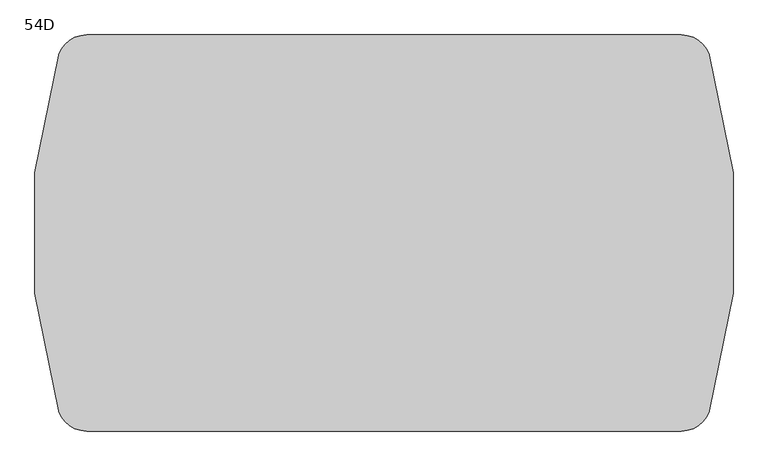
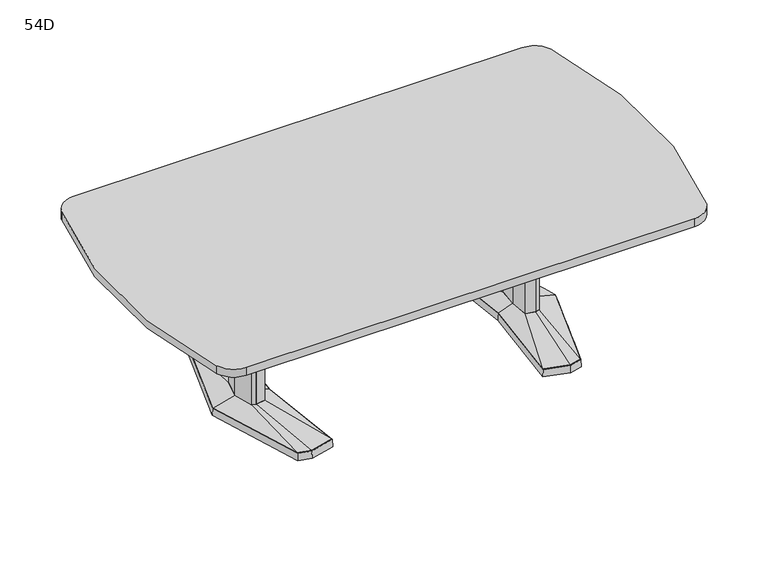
"""IFC4 building model written with IfcOpenShell, lengths in millimetres: furniture geometry, Coalesse_AM_Table_Conference_ETable2_SoftRadiused_96in_AluminiumBase : 54D."""

import ifcopenshell
import ifcopenshell.guid

model = None  # the IFC model being written
_history = None  # IfcOwnerHistory: only IFC2X3 demands one
_inside = {}  # id of a spatial element -> (the spatial element, [elements in it])
_under = {}  # id of a project, library or spatial element -> (it, [spatial elements below it])
_declared = {}  # id of a project -> (the project, [libraries it declares])
_typed = {}  # id of a type object -> (the type object, [elements of that type])
_made_of = {}  # id of a material, layer set ... -> (it, [elements and type objects made of it])


def new_model(schema):
    """Start an empty IFC model of exactly this schema.

    Asked for "IFC4X3", IfcOpenShell would pick the latest addendum, in which some entities
    have other attributes; the version numbers below select the first issue.
    IFC2X3 requires an IfcOwnerHistory on every rooted entity: one is made here for all.
    """
    global model, _history
    if schema == "IFC4X3":
        model = ifcopenshell.file(schema_version=(4, 3, 0, 0))
    else:
        model = ifcopenshell.file(schema=schema)
    _inside.clear()
    _under.clear()
    _declared.clear()
    _typed.clear()
    _made_of.clear()
    _history = None
    if model.schema == "IFC2X3":
        org = make("IfcOrganization", Name="unknown")
        user = make(
            "IfcPersonAndOrganization",
            ThePerson=make("IfcPerson", FamilyName="unknown"),
            TheOrganization=org,
        )
        app = make(
            "IfcApplication",
            ApplicationDeveloper=org,
            Version="unknown",
            ApplicationFullName="unknown",
            ApplicationIdentifier="unknown",
        )
        _history = make(
            "IfcOwnerHistory",
            OwningUser=user,
            OwningApplication=app,
            ChangeAction="ADDED",
            CreationDate=0,
        )
    return model


def make(cls, **values):
    """One entity of the class cls with the attributes given. An attribute that is None is left unset."""
    return model.create_entity(
        cls, **{name: value for name, value in values.items() if value is not None}
    )


def rooted(cls, **values):
    """An entity with a GlobalId (a new one), such as an element, a storey or a relation."""
    return make(cls, GlobalId=ifcopenshell.guid.new(), OwnerHistory=_history, **values)


def si_unit(unit_type, name, prefix=None):
    """IfcSIUnit, for example si_unit("LENGTHUNIT", "METRE", prefix="MILLI")."""
    return make("IfcSIUnit", UnitType=unit_type, Prefix=prefix, Name=name)


def assignment(units):
    """IfcUnitAssignment: the units of a project."""
    return None if units is None else make("IfcUnitAssignment", Units=units)


def point(xyz):
    """IfcCartesianPoint."""
    return None if xyz is None else make("IfcCartesianPoint", Coordinates=xyz)


def direction(xyz):
    """IfcDirection."""
    return None if xyz is None else make("IfcDirection", DirectionRatios=xyz)


def frame(location, z_axis=None, x_axis=None):
    """IfcAxis2Placement3D, a coordinate frame: its origin and axes. An axis left out is left unset."""
    return make(
        "IfcAxis2Placement3D",
        Location=point(location),
        Axis=direction(z_axis),
        RefDirection=direction(x_axis),
    )


def frame_2d(location, x_axis=None):
    """IfcAxis2Placement2D, a coordinate frame in the plane: its origin and x axis."""
    return make(
        "IfcAxis2Placement2D", Location=point(location), RefDirection=direction(x_axis)
    )


def origin():
    """The frame at (0, 0, 0) with its axes left unset."""
    return frame((0.0, 0.0, 0.0))


def place(relative_to, where):
    """IfcLocalPlacement: puts the frame where relative to a parent placement (None: the world)."""
    return make(
        "IfcLocalPlacement", PlacementRelTo=relative_to, RelativePlacement=where
    )


def context(
    kind, dimensions, precision=None, world=None, true_north=None, identifier=None
):
    """IfcGeometricRepresentationContext, for example the 3D "Model" context."""
    return make(
        "IfcGeometricRepresentationContext",
        ContextIdentifier=identifier,
        ContextType=kind,
        CoordinateSpaceDimension=dimensions,
        Precision=precision,
        WorldCoordinateSystem=world,
        TrueNorth=true_north,
    )


def project(units=None, contexts=None):
    """IfcProject with its units and contexts."""
    return rooted(
        "IfcProject",
        Name="project",
        RepresentationContexts=contexts,
        UnitsInContext=assignment(units),
    )


def spatial(cls, under=None, at=None, **own):
    """A site, building, storey or space (cls), placed at a placement, below another one or the project."""
    s = rooted(cls, ObjectPlacement=at, **own)
    if under is not None:
        _under.setdefault(under.id(), (under, []))[1].append(s)
    return s


def polyline(points):
    """IfcPolyline through the points."""
    return make("IfcPolyline", Points=[point(p) for p in points])


def circle_curve(where, radius):
    """IfcCircle in the frame where."""
    return make("IfcCircle", Position=where, Radius=radius)


def trimmed(basis, trim1, trim2, sense, master):
    """IfcTrimmedCurve: the piece of a basis curve between two trims."""
    return make(
        "IfcTrimmedCurve",
        BasisCurve=basis,
        Trim1=trim1,
        Trim2=trim2,
        SenseAgreement=sense,
        MasterRepresentation=master,
    )


def segment(curve, same_sense, transition):
    """IfcCompositeCurveSegment."""
    return make(
        "IfcCompositeCurveSegment",
        Transition=transition,
        SameSense=same_sense,
        ParentCurve=curve,
    )


def composite_curve(segments, self_intersect=None):
    """IfcCompositeCurve: segments joined end to end."""
    return make("IfcCompositeCurve", Segments=segments, SelfIntersect=self_intersect)


def outline(outer, holes=None, kind="AREA"):
    """IfcArbitraryClosedProfileDef: a profile drawn as a closed curve; with holes, ...WithVoids."""
    if holes is None:
        return make("IfcArbitraryClosedProfileDef", ProfileType=kind, OuterCurve=outer)
    return make(
        "IfcArbitraryProfileDefWithVoids",
        ProfileType=kind,
        OuterCurve=outer,
        InnerCurves=holes,
    )


def extrude(swept, where, along, depth):
    """IfcExtrudedAreaSolid: the profile swept, set in the frame where, extruded along a direction by depth."""
    return make(
        "IfcExtrudedAreaSolid",
        SweptArea=swept,
        Position=where,
        ExtrudedDirection=direction(along),
        Depth=depth,
    )


def faces_of(points, faces, orient=None, outer=None):
    """IfcFace entities. A face is a list of loops; a loop is a list of indices into points, from 0.

    orient and outer hold one flag for each loop. By default every Orientation is true, the
    first loop of a face is its IfcFaceOuterBound and the others are IfcFaceBound.
    """
    made = []
    for i, loops in enumerate(faces):
        bounds = []
        for j, loop in enumerate(loops):
            is_outer = j == 0 if outer is None else outer[i][j]
            bounds.append(
                make(
                    "IfcFaceOuterBound" if is_outer else "IfcFaceBound",
                    Bound=make("IfcPolyLoop", Polygon=[points[k] for k in loop]),
                    Orientation=True if orient is None else orient[i][j],
                )
            )
        made.append(make("IfcFace", Bounds=bounds))
    return made


def faceted_brep(points, faces, orient=None, outer=None, voids=None):
    """IfcFacetedBrep: a solid bounded by flat faces; with voids (closed shells), ...WithVoids."""
    shared = [point(p) for p in points]
    hull = make("IfcClosedShell", CfsFaces=faces_of(shared, faces, orient, outer))
    if voids is None:
        return make("IfcFacetedBrep", Outer=hull)
    return make(
        "IfcFacetedBrepWithVoids",
        Outer=hull,
        Voids=[
            make(cls, CfsFaces=faces_of(shared, fs, o, b)) for cls, fs, o, b in voids
        ],
    )


def shape(context_of_items, identifier, shape_type, items):
    """IfcShapeRepresentation: the items that make up one representation, for example the "Body"."""
    return make(
        "IfcShapeRepresentation",
        ContextOfItems=context_of_items,
        RepresentationIdentifier=identifier,
        RepresentationType=shape_type,
        Items=items,
    )


def source(mapping_origin, context_of_items, identifier, shape_type, items):
    """IfcRepresentationMap: a shape defined once, which mapped items show again and again."""
    return make(
        "IfcRepresentationMap",
        MappingOrigin=mapping_origin,
        MappedRepresentation=shape(context_of_items, identifier, shape_type, items),
    )


def transform(
    local_origin,
    x_axis=None,
    y_axis=None,
    z_axis=None,
    scale=None,
    scale2=None,
    scale3=None,
    uniform=True,
):
    """IfcCartesianTransformationOperator3D, or its non-uniform kind. x_axis, y_axis, z_axis: its Axis1, 2, 3."""
    if uniform:
        return make(
            "IfcCartesianTransformationOperator3D",
            Axis1=direction(x_axis),
            Axis2=direction(y_axis),
            LocalOrigin=point(local_origin),
            Scale=scale,
            Axis3=direction(z_axis),
        )
    return make(
        "IfcCartesianTransformationOperator3DnonUniform",
        Axis1=direction(x_axis),
        Axis2=direction(y_axis),
        LocalOrigin=point(local_origin),
        Scale=scale,
        Axis3=direction(z_axis),
        Scale2=scale2,
        Scale3=scale3,
    )


def mapped(mapping_source, mapping_target):
    """IfcMappedItem: shows the shape of a source again, moved by a transform."""
    return make(
        "IfcMappedItem", MappingSource=mapping_source, MappingTarget=mapping_target
    )


def made_of(thing, what):
    """Note that an element or type object is made of a material, layer set ...; save() writes the relation."""
    if what is not None:
        _made_of.setdefault(what.id(), (what, []))[1].append(thing)
    return thing


def element(
    cls,
    number,
    at=None,
    inside=None,
    cuts=None,
    type_object=None,
    material=None,
    context=None,
    identifier="Body",
    shape_type=None,
    held_by="IfcProductDefinitionShape",
    body=None,
    shapes=None,
    **own,
):
    """One element of the class cls, such as IfcWall. Its Tag is "e" and its number.

    at: its placement. inside: the storey or other place that contains it. cuts: it is an
    opening in that element (IfcRelVoidsElement). A single representation is given by context,
    identifier, shape_type and body (its items); several are given by shapes. held_by: the class
    of the entity that holds the representations. save() writes the other relations.
    """
    e = rooted(cls, Tag="e%d" % number, ObjectPlacement=at, **own)
    if body is not None:
        shapes = [shape(context, identifier, shape_type, body)]
    if shapes is not None:
        e.Representation = make(held_by, Representations=shapes)
    if inside is not None:
        _inside.setdefault(inside.id(), (inside, []))[1].append(e)
    if cuts is not None:
        rooted(
            "IfcRelVoidsElement", RelatingBuildingElement=cuts, RelatedOpeningElement=e
        )
    if type_object is not None:
        _typed.setdefault(type_object.id(), (type_object, []))[1].append(e)
    return made_of(e, material)


def aggregate(whole, parts):
    """IfcRelAggregates: a whole, such as a stair, and the parts it consists of."""
    return rooted("IfcRelAggregates", RelatingObject=whole, RelatedObjects=parts)


def save(model, path):
    """Write the relations noted so far, then the file.

    IfcRelAggregates (storeys below a building ...), IfcRelContainedInSpatialStructure (elements
    in a storey), IfcRelDefinesByType, IfcRelAssociatesMaterial and IfcRelDeclares: one each for
    every whole, place, type object, material and project.
    """
    for whole, parts in _under.values():
        aggregate(whole, parts)
    for where, things in _inside.values():
        rooted(
            "IfcRelContainedInSpatialStructure",
            RelatedElements=things,
            RelatingStructure=where,
        )
    for kind, things in _typed.values():
        rooted("IfcRelDefinesByType", RelatedObjects=things, RelatingType=kind)
    for what, things in _made_of.values():
        rooted("IfcRelAssociatesMaterial", RelatedObjects=things, RelatingMaterial=what)
    for by, libraries in _declared.values():
        rooted("IfcRelDeclares", RelatingContext=by, RelatedDefinitions=libraries)
    model.write(path)


def plane_surface(at):
    """IfcPlane: the flat surface through the origin of the frame at, square to its z axis."""
    return make("IfcPlane", Position=at)


def spline_surface(u_degree, v_degree, points, u_multiplicities, v_multiplicities, u_knots, v_knots, weights=None):
    """IfcBSplineSurfaceWithKnots; with weights, IfcRationalBSplineSurfaceWithKnots. points: one row for each step in u."""
    own = dict(
        UDegree=u_degree,
        VDegree=v_degree,
        ControlPointsList=[[point(p) for p in row] for row in points],
        SurfaceForm="UNSPECIFIED",
        UClosed=False,
        VClosed=False,
        SelfIntersect=False,
        UMultiplicities=u_multiplicities,
        VMultiplicities=v_multiplicities,
        UKnots=u_knots,
        VKnots=v_knots,
        KnotSpec="UNSPECIFIED",
    )
    if weights is None:
        return make("IfcBSplineSurfaceWithKnots", **own)
    return make("IfcRationalBSplineSurfaceWithKnots", WeightsData=weights, **own)


def advanced_brep(points, edges, surfaces, faces):
    """IfcAdvancedBrep: a solid bounded by faces that lie on surfaces and meet in shared edges.

    An edge is (start, end): straight between two places in points (the first is 0);
    or (start, end, curve); or (start, end, curve, False) where it runs against its curve.
    A face is (place in surfaces, loops), or (place, loops, False) where it looks against
    its surface's normal. A loop lists edges by number (the first is 1), with a minus sign
    where the edge is run from its end to its start. The first loop is the outer one.
    """
    corners = [point(p) for p in points]
    vertices = [make("IfcVertexPoint", VertexGeometry=c) for c in corners]
    made = []
    for start, end, *more in edges:
        made.append(
            make(
                "IfcEdgeCurve",
                EdgeStart=vertices[start],
                EdgeEnd=vertices[end],
                EdgeGeometry=more[0] if more else make("IfcPolyline", Points=[corners[start], corners[end]]),
                SameSense=more[1] if len(more) > 1 else True,
            )
        )
    hull = []
    for where, loops, *sense in faces:
        bounds = []
        for j, loop in enumerate(loops):
            ring = [make("IfcOrientedEdge", EdgeElement=made[abs(k) - 1], Orientation=k > 0) for k in loop]
            bounds.append(
                make(
                    "IfcFaceOuterBound" if j == 0 else "IfcFaceBound",
                    Bound=make("IfcEdgeLoop", EdgeList=ring),
                    Orientation=True,
                )
            )
        hull.append(make("IfcAdvancedFace", Bounds=bounds, FaceSurface=surfaces[where], SameSense=sense[0] if sense else True))
    return make("IfcAdvancedBrep", Outer=make("IfcClosedShell", CfsFaces=hull))


def furniture_54d_0f6988a3(model_context):
    return source(origin(), model_context, "Body", "SolidModel", [
        faceted_brep([(594.6806835, 455.5848221, 38.1), (485.1031277, 426.2263816, 38.1), (526.2663717, 0.0, 38.1), (485.1031277, -426.2263816, 38.1), (594.6806835, -455.5848221, 38.1), (650.8070396, -440.5478297, 38.1), (788.1184269, 0.0, 38.1), (650.8070396, 440.5478297, 38.1), (594.6806754, 457.2283104, 3.175), (652.0624472, 441.8549756, 3.175), (789.78125, 0.0, 3.175), (652.0624472, -441.8549756, 3.175), (594.6806754, -457.2283104, 3.175), (483.39375, -427.4118891, 3.175), (524.6714856, 0.0, 3.175), (483.39375, 427.4118891, 3.175), (598.270115, 428.3273875, 3.175), (493.2218228, 402.1057253, 3.175), (501.340518, 377.985069, 3.175), (601.8595466, 401.0699529, 3.175), (652.4191725, 387.524361, 3.175), (651.6131061, 414.0360954, 3.175), (598.270115, -428.3273875, 3.175), (651.6131061, -414.0360954, 3.175), (652.4191725, -387.524361, 3.175), (601.8595466, -401.0699529, 3.175), (501.340518, -377.985069, 3.175), (493.2218228, -402.1057253, 3.175), (724.8653621, 0.0, 3.175), (692.5959611, 120.4193755, 3.175), (643.9487222, 133.471665, 3.175), (564.0680526, 119.4176561, 3.175), (552.9368466, 0.0, 3.175), (564.0680526, -119.4176561, 3.175), (643.9487222, -133.471665, 3.175), (692.5959611, -120.4193755, 3.175), (598.270115, 428.3273875, 0.0), (651.6131061, 414.0360954, 0.0), (652.4191725, 387.524361, 0.0), (601.8595466, 401.0699529, 0.0), (501.340518, 377.985069, 0.0), (493.2218228, 402.1057253, 0.0), (598.270115, -428.3273875, 0.0), (493.2218228, -402.1057253, 0.0), (501.340518, -377.985069, 0.0), (601.8595466, -401.0699529, 0.0), (652.4191725, -387.524361, 0.0), (651.6131061, -414.0360954, 0.0), (724.8653621, 0.0, 0.0), (692.5959611, -120.4193755, 0.0), (643.9487222, -133.471665, 0.0), (564.0680526, -119.4176561, 0.0), (552.9368466, 0.0, 0.0), (564.0680526, 119.4176561, 0.0), (643.9487222, 133.471665, 0.0), (692.5959611, 120.4193755, 0.0)], [[[0, 1, 2, 3, 4, 5, 6, 7]], [[8, 9, 10, 11, 12, 13, 14, 15], [16, 17, 18, 19, 20, 21], [22, 23, 24, 25, 26, 27], [28, 29, 30, 31, 32, 33, 34, 35]], [[7, 9, 8, 0]], [[6, 10, 9, 7]], [[5, 11, 10, 6]], [[4, 12, 11, 5]], [[3, 13, 12, 4]], [[2, 14, 13, 3]], [[1, 15, 14, 2]], [[0, 8, 15, 1]], [[36, 37, 38, 39, 40, 41]], [[42, 43, 44, 45, 46, 47]], [[48, 49, 50, 51, 52, 53, 54, 55]], [[36, 16, 21, 37]], [[37, 21, 20, 38]], [[38, 20, 19, 39]], [[39, 19, 18, 40]], [[40, 18, 17, 41]], [[41, 17, 16, 36]], [[42, 22, 27, 43]], [[43, 27, 26, 44]], [[44, 26, 25, 45]], [[45, 25, 24, 46]], [[46, 24, 23, 47]], [[47, 23, 22, 42]], [[48, 28, 35, 49]], [[49, 35, 34, 50]], [[50, 34, 33, 51]], [[51, 33, 32, 52]], [[52, 32, 31, 53]], [[53, 31, 30, 54]], [[54, 30, 29, 55]], [[55, 29, 28, 48]]]),
        faceted_brep([(685.4210836, 0.0, 698.5), (661.4858546, 89.3188359, 698.5), (644.6324984, 93.8406728, 698.5), (642.2326511, 94.4845635, 698.5), (599.305146, 86.9320037, 698.5), (591.2020056, 0.0, 698.5), (599.305146, -86.9320037, 698.5), (642.2326511, -94.4845635, 698.5), (644.6324984, -93.8406728, 698.5), (661.4858546, -89.3188359, 698.5), (685.4210836, 0.0, 63.5), (661.4858546, -89.3188359, 63.5), (644.6324984, -93.8406728, 63.5), (642.2326511, -94.4845635, 63.5), (599.305146, -86.9320037, 63.5), (591.2020056, 0.0, 63.5), (599.305146, 86.9320037, 63.5), (642.2326511, 94.4845635, 63.5), (644.6324984, 93.8406728, 63.5), (661.4858546, 89.3188359, 63.5)], [[[0, 1, 2, 3, 4, 5, 6, 7, 8, 9]], [[10, 11, 12, 13, 14, 15, 16, 17, 18, 19]], [[9, 11, 10, 0]], [[8, 12, 11, 9]], [[7, 13, 12, 8]], [[6, 14, 13, 7]], [[5, 15, 14, 6]], [[4, 16, 15, 5]], [[3, 17, 16, 4]], [[2, 18, 17, 3]], [[1, 19, 18, 2]], [[0, 10, 19, 1]]]),
        advanced_brep(
        [(642.2326511, 94.4845635, 63.5), (599.305146, 86.9320037, 63.5), (591.2020056, 0.0, 63.5), (599.305146, -86.9320037, 63.5), (642.2326511, -94.4845635, 63.5), (661.4858546, -89.3188359, 63.5), (685.4210836, 0.0, 63.5), (661.4858546, 89.3188359, 63.5), (594.6806835, 455.5848221, 38.1), (650.8070396, 440.5478297, 38.1), (788.1184269, 0.0, 38.1), (650.8070396, -440.5478297, 38.1), (594.6806835, -455.5848221, 38.1), (485.1031277, -426.2263816, 38.1), (526.2663717, 0.0, 38.1), (485.1031277, 426.2263816, 38.1)],
        [
            (0, 1),
            (1, 2),
            (2, 3),
            (3, 4),
            (4, 5),
            (5, 6),
            (6, 7),
            (7, 0),
            (8, 9),
            (9, 10),
            (10, 11),
            (11, 12),
            (12, 13),
            (13, 14),
            (14, 15),
            (15, 8),
            (8, 0),
            (7, 9),
            (6, 10),
            (5, 11),
            (4, 12),
            (3, 13),
            (2, 14),
            (1, 15),
        ],
        [
            plane_surface(frame((635.3337991, 0.0, 63.5), z_axis=(0.0, 0.0, 1.0), x_axis=(-0.25884244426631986, -0.9659195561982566, 0.0))),
            plane_surface(frame((596.9458125, 0.0, 38.1), z_axis=(0.0, 0.0, -1.0), x_axis=(-0.25884244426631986, -0.9659195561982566, 0.0))),
            spline_surface(1, 1, [[(594.6806835, 455.5848221, 38.1), (650.8070396, 440.5478297, 38.1)], [(642.2326511, 94.4845635, 63.5), (661.4858546, 89.3188359, 63.5)]], [2, 2], [2, 2], [0.0, 1.0], [0.0, 1.0]),
            spline_surface(1, 1, [[(650.8070396, 440.5478297, 38.1), (788.1184269, 0.0, 38.1)], [(661.4858546, 89.3188359, 63.5), (685.4210836, 0.0, 63.5)]], [2, 2], [2, 2], [0.0, 1.0], [0.0, 1.0]),
            spline_surface(1, 1, [[(788.1184269, 0.0, 38.1), (650.8070396, -440.5478297, 38.1)], [(685.4210836, 0.0, 63.5), (661.4858546, -89.3188359, 63.5)]], [2, 2], [2, 2], [0.0, 1.0], [0.0, 1.0]),
            spline_surface(1, 1, [[(650.8070396, -440.5478297, 38.1), (594.6806835, -455.5848221, 38.1)], [(661.4858546, -89.3188359, 63.5), (642.2326511, -94.4845635, 63.5)]], [2, 2], [2, 2], [0.0, 1.0], [0.0, 1.0]),
            spline_surface(1, 1, [[(594.6806835, -455.5848221, 38.1), (485.1031277, -426.2263816, 38.1)], [(642.2326511, -94.4845635, 63.5), (599.305146, -86.9320037, 63.5)]], [2, 2], [2, 2], [0.0, 1.0], [0.0, 1.0]),
            spline_surface(1, 1, [[(485.1031277, -426.2263816, 38.1), (526.2663717, 0.0, 38.1)], [(599.305146, -86.9320037, 63.5), (591.2020056, 0.0, 63.5)]], [2, 2], [2, 2], [0.0, 1.0], [0.0, 1.0]),
            spline_surface(1, 1, [[(526.2663717, 0.0, 38.1), (485.1031277, 426.2263816, 38.1)], [(591.2020056, 0.0, 63.5), (599.305146, 86.9320037, 63.5)]], [2, 2], [2, 2], [0.0, 1.0], [0.0, 1.0]),
            spline_surface(1, 1, [[(485.1031277, 426.2263816, 38.1), (594.6806835, 455.5848221, 38.1)], [(599.305146, 86.9320037, 63.5), (642.2326511, 94.4845635, 63.5)]], [2, 2], [2, 2], [0.0, 1.0], [0.0, 1.0]),
        ],
        [
            (0, [[1, 2, 3, 4, 5, 6, 7, 8]]),
            (1, [[9, 10, 11, 12, 13, 14, 15, 16]]),
            (2, [[17, -8, 18, -9]]),
            (3, [[-18, -7, 19, -10]]),
            (4, [[-19, -6, 20, -11]]),
            (5, [[-20, -5, 21, -12]]),
            (6, [[-21, -4, 22, -13]]),
            (7, [[-22, -3, 23, -14]]),
            (8, [[-23, -2, 24, -15]]),
            (9, [[-24, -1, -17, -16]]),
        ],
    ),
        faceted_brep([(-594.6806835, 455.5848221, 38.1), (-650.8070396, 440.5478297, 38.1), (-788.1184269, 0.0, 38.1), (-650.8070396, -440.5478297, 38.1), (-594.6806835, -455.5848221, 38.1), (-485.1031277, -426.2263816, 38.1), (-526.2663717, 0.0, 38.1), (-485.1031277, 426.2263816, 38.1), (-594.6806754, 457.2283104, 3.175), (-483.39375, 427.4118891, 3.175), (-524.6714856, 0.0, 3.175), (-483.39375, -427.4118891, 3.175), (-594.6806754, -457.2283104, 3.175), (-652.0624472, -441.8549756, 3.175), (-789.78125, 0.0, 3.175), (-652.0624472, 441.8549756, 3.175), (-598.270115, 428.3273875, 3.175), (-651.6131061, 414.0360954, 3.175), (-652.4191725, 387.524361, 3.175), (-601.8595466, 401.0699529, 3.175), (-501.340518, 377.985069, 3.175), (-493.2218228, 402.1057253, 3.175), (-598.270115, -428.3273875, 3.175), (-493.2218228, -402.1057253, 3.175), (-501.340518, -377.985069, 3.175), (-601.8595466, -401.0699529, 3.175), (-652.4191725, -387.524361, 3.175), (-651.6131061, -414.0360954, 3.175), (-724.8653621, 0.0, 3.175), (-692.5959611, -120.4193755, 3.175), (-643.9487222, -133.471665, 3.175), (-564.0680526, -119.4176561, 3.175), (-552.9368466, 0.0, 3.175), (-564.0680526, 119.4176561, 3.175), (-643.9487222, 133.471665, 3.175), (-692.5959611, 120.4193755, 3.175), (-598.270115, 428.3273875, 0.0), (-493.2218228, 402.1057253, 0.0), (-501.340518, 377.985069, 0.0), (-601.8595466, 401.0699529, 0.0), (-652.4191725, 387.524361, 0.0), (-651.6131061, 414.0360954, 0.0), (-598.270115, -428.3273875, 0.0), (-651.6131061, -414.0360954, 0.0), (-652.4191725, -387.524361, 0.0), (-601.8595466, -401.0699529, 0.0), (-501.340518, -377.985069, 0.0), (-493.2218228, -402.1057253, 0.0), (-724.8653621, 0.0, 0.0), (-692.5959611, 120.4193755, 0.0), (-643.9487222, 133.471665, 0.0), (-564.0680526, 119.4176561, 0.0), (-552.9368466, 0.0, 0.0), (-564.0680526, -119.4176561, 0.0), (-643.9487222, -133.471665, 0.0), (-692.5959611, -120.4193755, 0.0)], [[[0, 1, 2, 3, 4, 5, 6, 7]], [[8, 9, 10, 11, 12, 13, 14, 15], [16, 17, 18, 19, 20, 21], [22, 23, 24, 25, 26, 27], [28, 29, 30, 31, 32, 33, 34, 35]], [[1, 0, 8, 15]], [[2, 1, 15, 14]], [[3, 2, 14, 13]], [[4, 3, 13, 12]], [[5, 4, 12, 11]], [[6, 5, 11, 10]], [[7, 6, 10, 9]], [[0, 7, 9, 8]], [[36, 37, 38, 39, 40, 41]], [[42, 43, 44, 45, 46, 47]], [[48, 49, 50, 51, 52, 53, 54, 55]], [[36, 41, 17, 16]], [[41, 40, 18, 17]], [[40, 39, 19, 18]], [[39, 38, 20, 19]], [[38, 37, 21, 20]], [[37, 36, 16, 21]], [[42, 47, 23, 22]], [[47, 46, 24, 23]], [[46, 45, 25, 24]], [[45, 44, 26, 25]], [[44, 43, 27, 26]], [[43, 42, 22, 27]], [[48, 55, 29, 28]], [[55, 54, 30, 29]], [[54, 53, 31, 30]], [[53, 52, 32, 31]], [[52, 51, 33, 32]], [[51, 50, 34, 33]], [[50, 49, 35, 34]], [[49, 48, 28, 35]]]),
        faceted_brep([(-685.4210836, 0.0, 698.5), (-661.4858546, -89.3188359, 698.5), (-644.6324984, -93.8406728, 698.5), (-642.2326511, -94.4845635, 698.5), (-599.305146, -86.9320037, 698.5), (-591.2020056, 0.0, 698.5), (-599.305146, 86.9320037, 698.5), (-642.2326511, 94.4845635, 698.5), (-644.6324984, 93.8406728, 698.5), (-661.4858546, 89.3188359, 698.5), (-685.4210836, 0.0, 63.5), (-661.4858546, 89.3188359, 63.5), (-644.6324984, 93.8406728, 63.5), (-642.2326511, 94.4845635, 63.5), (-599.305146, 86.9320037, 63.5), (-591.2020056, 0.0, 63.5), (-599.305146, -86.9320037, 63.5), (-642.2326511, -94.4845635, 63.5), (-644.6324984, -93.8406728, 63.5), (-661.4858546, -89.3188359, 63.5)], [[[0, 1, 2, 3, 4, 5, 6, 7, 8, 9]], [[10, 11, 12, 13, 14, 15, 16, 17, 18, 19]], [[1, 0, 10, 19]], [[2, 1, 19, 18]], [[3, 2, 18, 17]], [[4, 3, 17, 16]], [[5, 4, 16, 15]], [[6, 5, 15, 14]], [[7, 6, 14, 13]], [[8, 7, 13, 12]], [[9, 8, 12, 11]], [[0, 9, 11, 10]]]),
        advanced_brep(
        [(-642.2326511, 94.4845635, 63.5), (-661.4858546, 89.3188359, 63.5), (-685.4210836, 0.0, 63.5), (-661.4858546, -89.3188359, 63.5), (-642.2326511, -94.4845635, 63.5), (-599.305146, -86.9320037, 63.5), (-591.2020056, 0.0, 63.5), (-599.305146, 86.9320037, 63.5), (-594.6806835, 455.5848221, 38.1), (-485.1031277, 426.2263816, 38.1), (-526.2663717, 0.0, 38.1), (-485.1031277, -426.2263816, 38.1), (-594.6806835, -455.5848221, 38.1), (-650.8070396, -440.5478297, 38.1), (-788.1184269, 0.0, 38.1), (-650.8070396, 440.5478297, 38.1)],
        [
            (0, 1),
            (1, 2),
            (2, 3),
            (3, 4),
            (4, 5),
            (5, 6),
            (6, 7),
            (7, 0),
            (8, 9),
            (9, 10),
            (10, 11),
            (11, 12),
            (12, 13),
            (13, 14),
            (14, 15),
            (15, 8),
            (15, 1),
            (0, 8),
            (14, 2),
            (13, 3),
            (12, 4),
            (11, 5),
            (10, 6),
            (9, 7),
        ],
        [
            plane_surface(frame((-635.3337991, 0.0, 63.5), z_axis=(0.0, 0.0, 1.0), x_axis=(0.25884244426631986, -0.9659195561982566, 0.0))),
            plane_surface(frame((-596.9458125, 0.0, 38.1), z_axis=(0.0, 0.0, -1.0), x_axis=(0.25884244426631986, -0.9659195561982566, 0.0))),
            spline_surface(1, 1, [[(-594.6806835, 455.5848221, 38.1), (-642.2326511, 94.4845635, 63.5)], [(-650.8070396, 440.5478297, 38.1), (-661.4858546, 89.3188359, 63.5)]], [2, 2], [2, 2], [0.0, 1.0], [0.0, 1.0]),
            spline_surface(1, 1, [[(-650.8070396, 440.5478297, 38.1), (-661.4858546, 89.3188359, 63.5)], [(-788.1184269, 0.0, 38.1), (-685.4210836, 0.0, 63.5)]], [2, 2], [2, 2], [0.0, 1.0], [0.0, 1.0]),
            spline_surface(1, 1, [[(-788.1184269, 0.0, 38.1), (-685.4210836, 0.0, 63.5)], [(-650.8070396, -440.5478297, 38.1), (-661.4858546, -89.3188359, 63.5)]], [2, 2], [2, 2], [0.0, 1.0], [0.0, 1.0]),
            spline_surface(1, 1, [[(-650.8070396, -440.5478297, 38.1), (-661.4858546, -89.3188359, 63.5)], [(-594.6806835, -455.5848221, 38.1), (-642.2326511, -94.4845635, 63.5)]], [2, 2], [2, 2], [0.0, 1.0], [0.0, 1.0]),
            spline_surface(1, 1, [[(-594.6806835, -455.5848221, 38.1), (-642.2326511, -94.4845635, 63.5)], [(-485.1031277, -426.2263816, 38.1), (-599.305146, -86.9320037, 63.5)]], [2, 2], [2, 2], [0.0, 1.0], [0.0, 1.0]),
            spline_surface(1, 1, [[(-485.1031277, -426.2263816, 38.1), (-599.305146, -86.9320037, 63.5)], [(-526.2663717, 0.0, 38.1), (-591.2020056, 0.0, 63.5)]], [2, 2], [2, 2], [0.0, 1.0], [0.0, 1.0]),
            spline_surface(1, 1, [[(-526.2663717, 0.0, 38.1), (-591.2020056, 0.0, 63.5)], [(-485.1031277, 426.2263816, 38.1), (-599.305146, 86.9320037, 63.5)]], [2, 2], [2, 2], [0.0, 1.0], [0.0, 1.0]),
            spline_surface(1, 1, [[(-485.1031277, 426.2263816, 38.1), (-599.305146, 86.9320037, 63.5)], [(-594.6806835, 455.5848221, 38.1), (-642.2326511, 94.4845635, 63.5)]], [2, 2], [2, 2], [0.0, 1.0], [0.0, 1.0]),
        ],
        [
            (0, [[1, 2, 3, 4, 5, 6, 7, 8]]),
            (1, [[9, 10, 11, 12, 13, 14, 15, 16]]),
            (2, [[-16, 17, -1, 18]]),
            (3, [[-15, 19, -2, -17]]),
            (4, [[-14, 20, -3, -19]]),
            (5, [[-13, 21, -4, -20]]),
            (6, [[-12, 22, -5, -21]]),
            (7, [[-11, 23, -6, -22]]),
            (8, [[-10, 24, -7, -23]]),
            (9, [[-9, -18, -8, -24]]),
        ],
    ),
        extrude(outline(polyline([(96.8375, 698.5), (103.1875, 698.5), (103.1875, 476.25), (-103.1875, 476.25), (-103.1875, 698.5), (-96.8375, 698.5), (-96.8375, 482.6), (96.8375, 482.6), (96.8375, 698.5)])), frame((-597.9364207, 0.0, 0.0), z_axis=(1.0, 0.0, 0.0), x_axis=(0.0, 1.0, 0.0)), (0.0, 0.0, 1.0), 1195.8728415),
        extrude(outline(composite_curve([segment(polyline([(-1125.8457112, -618.0652296), (-1126.6015465, -615.9273037)]), True, "CONTINUOUS"), segment(trimmed(circle_curve(frame_2d((875.5403913, -0.0011977)), 2094.7403913), [point((-1126.6015465, -615.9273037))], [point((-1126.5956256, 615.9441544))], False, "CARTESIAN"), True, "CONTINUOUS"), segment(polyline([(-1126.5956256, 615.9441544), (-1125.8453442, 618.0662966)]), True, "CONTINUOUS"), segment(trimmed(circle_curve(frame_2d((-1030.0558148, 584.2)), 101.6), [point((-1125.8453442, 618.0662966))], [point((-1030.0558148, 685.8))], False, "CARTESIAN"), True, "CONTINUOUS"), segment(polyline([(-1030.0558148, 685.8), (1030.0557872, 685.8)]), True, "CONTINUOUS"), segment(trimmed(circle_curve(frame_2d((1030.0557872, 584.1999756)), 101.6000244), [point((1030.0557872, 685.8))], [point((1125.8457112, 618.0652296))], False, "CARTESIAN"), True, "CONTINUOUS"), segment(polyline([(1125.8457112, 618.0652296), (1126.6015465, 615.9248048)]), True, "CONTINUOUS"), segment(trimmed(circle_curve(frame_2d((-875.5320807, -5.18e-05)), 2094.7320807), [point((1126.6015465, 615.9248048))], [point((1126.5956256, -615.9441544))], False, "CARTESIAN"), True, "CONTINUOUS"), segment(polyline([(1126.5956256, -615.9441544), (1125.8453442, -618.0662966)]), True, "CONTINUOUS"), segment(trimmed(circle_curve(frame_2d((1030.0558148, -584.2)), 101.6), [point((1125.8453442, -618.0662966))], [point((1030.0558148, -685.8))], False, "CARTESIAN"), True, "CONTINUOUS"), segment(polyline([(1030.0558148, -685.8), (-1030.0557872, -685.8)]), True, "CONTINUOUS"), segment(trimmed(circle_curve(frame_2d((-1030.0557872, -584.1999756)), 101.6000244), [point((-1030.0557872, -685.8))], [point((-1125.8457112, -618.0652296))], False, "CARTESIAN"), True, "CONTINUOUS")], self_intersect=False)), frame((0.0, 0.0, 698.5), z_axis=(0.0, 0.0, 1.0), x_axis=(1.0, 0.0, 0.0)), (0.0, 0.0, 1.0), 38.1),
    ])


if __name__ == "__main__":
    model = new_model("IFC4")
    model_context = context("Model", 3, world=origin())
    ifc_project = project(units=[si_unit("LENGTHUNIT", "METRE", prefix="MILLI")], contexts=[model_context])
    site = spatial("IfcSite", under=ifc_project)
    building = spatial("IfcBuilding", under=site)
    placement = place(None, origin())
    furniture_54d_shape = furniture_54d_0f6988a3(model_context)
    element("IfcFurniture", 1, ObjectType="Coalesse_AM_Table_Conference_ETable2_SoftRadiused_96in_AluminiumBase : 54D", at=placement, inside=building, context=model_context, shape_type="MappedRepresentation", body=[
        mapped(furniture_54d_shape, transform((0.0, 0.0, 0.0), x_axis=(1.0, 0.0, 0.0), y_axis=(0.0, 1.0, 0.0), z_axis=(0.0, 0.0, 1.0))),
    ])
    save(model, "model.ifc")
